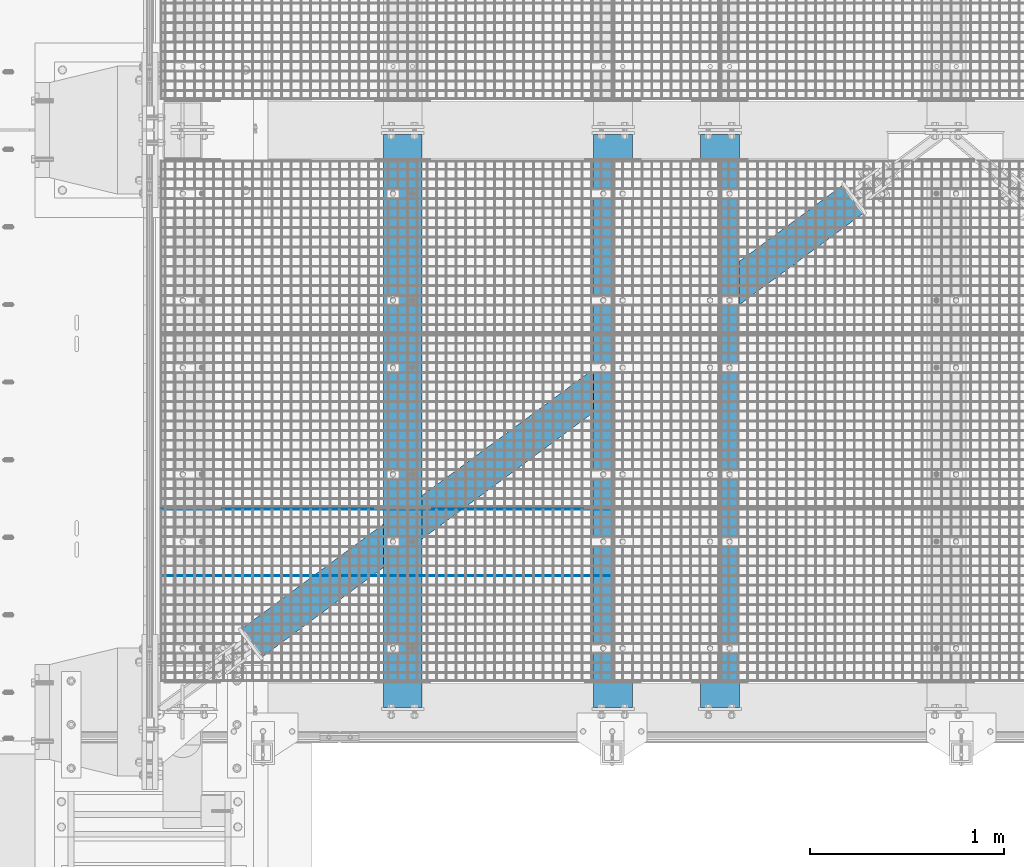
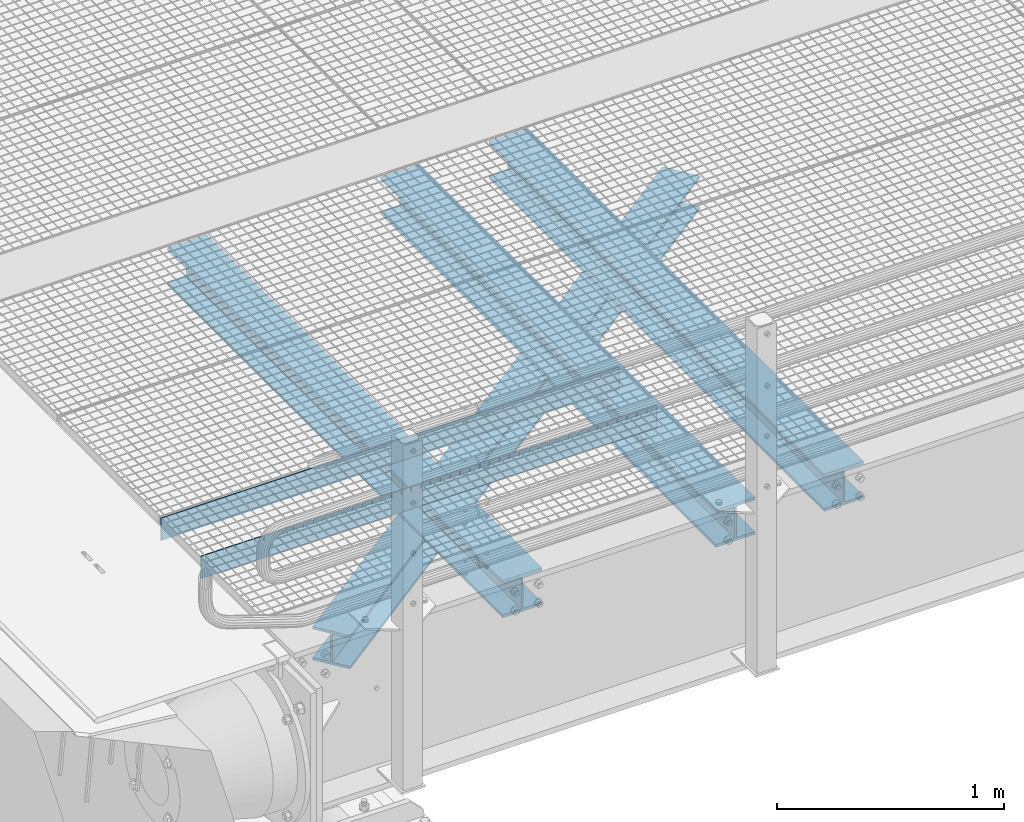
# One storey, part 140 of 1530: 6 beams.
"""IFC2X3 building model written with IfcOpenShell, lengths in millimetres."""

from ifc_helpers import new_model, si_unit, frame, origin_with_axes, place, context, subcontext, project, spatial, faceted_brep, material, type_object, element, save


model = new_model("IFC2X3")

# Units and contexts
model_context = context("Model", 3, precision=1e-05, world=origin_with_axes())
body_context = subcontext(model_context, "Body", "Model", "MODEL_VIEW")
ifc_project = project(units=[si_unit("LENGTHUNIT", "METRE", prefix="MILLI"), si_unit("AREAUNIT", "SQUARE_METRE"), si_unit("VOLUMEUNIT", "CUBIC_METRE"), si_unit("MASSUNIT", "GRAM", prefix="KILO"), si_unit("TIMEUNIT", "SECOND"), si_unit("PLANEANGLEUNIT", "RADIAN"), si_unit("SOLIDANGLEUNIT", "STERADIAN"), si_unit("THERMODYNAMICTEMPERATUREUNIT", "DEGREE_CELSIUS"), si_unit("LUMINOUSINTENSITYUNIT", "LUMEN")], contexts=[model_context])

# Site, building, storey
site_placement = place(None, origin_with_axes())
site = spatial("IfcSite", under=ifc_project, at=site_placement, Name="Brattvåg", CompositionType="ELEMENT")
building_placement = place(site_placement, origin_with_axes())
building = spatial("IfcBuilding", under=site, at=building_placement, Name="Undefined", CompositionType="ELEMENT")
storey_placement = place(building_placement, origin_with_axes())
storey = spatial("IfcBuildingStorey", under=building, at=storey_placement, Name="Undefined", CompositionType="ELEMENT", Elevation=0.0)

# Beams
ifc_material_1 = material(Name="STEEL/S355J2")
beam_type_1 = type_object("IfcBeamType", Name="120*5", PredefinedType="NOTDEFINED")
beam_1_placement = place(storey_placement, frame((2347.01317977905, 702.994873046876, -59.9998626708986), z_axis=(0.0, 0.0, 1.0), x_axis=(-1.0, 1.99999855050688e-09, 0.0)))
element("IfcBeam", 1, at=beam_1_placement, inside=storey, type_object=beam_type_1, material=ifc_material_1, Name="GRATING", context=body_context, shape_type="Brep", body=[
    faceted_brep([(99.4490367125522, -2.50000000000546, 60.0000722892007), (99.4490367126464, -2.50000000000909, 35.0001373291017), (99.4490367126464, 2.50022888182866, 35.0001373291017), (99.4490367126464, 2.5, 60.0), (104.449036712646, -2.50000000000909, 35.0001373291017), (104.449036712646, 2.50022888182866, 35.0001373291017), (104.449036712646, -2.50000000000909, 60.0001373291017), (104.449036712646, 2.5, 60.0), (54.5084370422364, -2.50000000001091, 60.0001373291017), (54.5084370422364, 2.5, 60.0), (54.5084370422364, 2.49999999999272, 35.0001373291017), (54.5084370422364, -2.50000000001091, 35.0001373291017), (49.5084370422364, 2.49999999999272, 35.0001373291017), (49.5084370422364, -2.50000000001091, 35.0001373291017), (49.5084370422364, -2.5, 60.0), (49.5084370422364, 2.5, 60.0), (0.0, 2.5, 60.0), (0.0, -2.5, 60.0), (0.0, -2.5, -60.0), (0.0, 2.5, -60.0), (2319.99865722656, 2.5, -60.0), (2319.99865722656, -2.5, -60.0), (2319.99865722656, -2.5, 60.0), (2319.99865722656, 2.5, 60.0), (2302.24871932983, 2.5, 60.0), (2302.24871932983, -2.50000000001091, 60.0001373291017), (2302.24871932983, 2.49999999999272, 35.0001373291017), (2302.24871932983, -2.50000000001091, 35.0001373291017), (2297.24871932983, 2.49999999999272, 35.0001373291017), (2297.24871932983, -2.50000000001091, 35.0001373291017), (2297.24871932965, -2.50000000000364, 60.0000461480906), (2297.24871932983, 2.5, 60.0), (2252.29859649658, 2.5, 60.0), (2252.29859649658, -2.50000000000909, 60.0001373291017), (2252.29859649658, 2.50022888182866, 35.0001373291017), (2252.29859649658, -2.50000000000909, 35.0001373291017), (2247.29859649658, 2.50022888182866, 35.0001373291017), (2247.29859649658, -2.50000000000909, 35.0001373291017), (2247.29859649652, -2.50000000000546, 60.0000848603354), (2247.29859649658, 2.5, 60.0), (2202.34847366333, 2.5, 60.0), (2202.34847366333, -2.50000000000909, 60.0001373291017), (2202.34847366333, 2.50022888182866, 35.0001373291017), (2202.34847366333, -2.50000000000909, 35.0001373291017), (2197.34847366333, 2.50022888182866, 35.0001373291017), (2197.34847366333, -2.50000000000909, 35.0001373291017), (2197.34847366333, -2.5, 60.0), (2197.34847366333, 2.5, 60.0), (2152.39882766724, 2.5, 60.0), (2152.39882766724, -2.50000000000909, 60.0001373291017), (2152.39882766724, 2.50022888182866, 35.0001373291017), (2152.39882766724, -2.50000000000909, 35.0001373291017), (2147.39882766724, 2.50022888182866, 35.0001373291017), (2147.39882766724, -2.50000000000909, 35.0001373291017), (2147.39882766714, -2.50000000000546, 60.0000722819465), (2147.39882766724, 2.5, 60.0), (2102.44870483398, 2.5, 60.0), (2102.44870483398, -2.50000000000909, 60.0001373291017), (2102.44870483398, 2.50022888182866, 35.0001373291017), (2102.44870483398, -2.50000000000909, 35.0001373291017), (2097.44870483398, 2.50022888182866, 35.0001373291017), (2097.44870483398, -2.50000000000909, 35.0001373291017), (2097.44870483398, -2.5, 60.0), (2097.44870483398, 2.5, 60.0), (2052.49858200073, 2.5, 60.0), (2052.49858200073, -2.50000000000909, 60.0001373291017), (2052.49858200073, 2.50022888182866, 35.0001373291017), (2052.49858200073, -2.50000000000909, 35.0001373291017), (2047.49858200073, 2.50022888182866, 35.0001373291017), (2047.49858200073, -2.50000000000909, 35.0001373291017), (2047.49858200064, -2.50000000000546, 60.0000722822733), (2047.49858200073, 2.5, 60.0), (2002.54845916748, 2.5, 60.0), (2002.54845916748, -2.50000000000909, 60.0001373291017), (2002.54845916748, 2.50022888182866, 35.0001373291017), (2002.54845916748, -2.50000000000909, 35.0001373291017), (1997.54845916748, 2.50022888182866, 35.0001373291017), (1997.54845916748, -2.50000000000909, 35.0001373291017), (1997.54845916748, -2.5, 60.0), (1997.54845916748, 2.5, 60.0), (1952.59881317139, 2.5, 60.0), (1952.59881317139, -2.50000000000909, 60.0001373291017), (1952.59881317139, 2.50022888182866, 35.0001373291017), (1952.59881317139, -2.50000000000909, 35.0001373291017), (1947.59881317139, 2.50022888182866, 35.0001373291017), (1947.59881317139, -2.50000000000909, 35.0001373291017), (1947.59881317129, -2.50000000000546, 60.0000722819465), (1947.59881317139, 2.5, 60.0), (1902.64869033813, 2.5, 60.0), (1902.64869033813, -2.50000000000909, 60.0001373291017), (1902.64869033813, 2.50022888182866, 35.0001373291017), (1902.64869033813, -2.50000000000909, 35.0001373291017), (1897.64869033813, 2.50022888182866, 35.0001373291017), (1897.64869033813, -2.50000000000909, 35.0001373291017), (1897.64869033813, -2.5, 60.0), (1897.64869033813, 2.5, 60.0), (1852.69856750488, 2.5, 60.0), (1852.69856750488, -2.50000000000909, 60.0001373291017), (1852.69856750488, 2.50022888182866, 35.0001373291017), (1852.69856750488, -2.50000000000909, 35.0001373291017), (1847.69856750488, 2.50022888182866, 35.0001373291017), (1847.69856750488, -2.50000000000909, 35.0001373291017), (1847.69856750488, -2.5, 60.0), (1847.69856750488, 2.5, 60.0), (1802.74892150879, 2.5, 60.0), (1802.74892150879, -2.50000000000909, 60.0001373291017), (1802.74892150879, 2.50022888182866, 35.0001373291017), (1802.74892150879, -2.50000000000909, 35.0001373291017), (1797.74892150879, 2.50022888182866, 35.0001373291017), (1797.74892150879, -2.50000000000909, 35.0001373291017), (1797.74892150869, -2.50000000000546, 60.0000722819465), (1797.74892150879, 2.5, 60.0), (1752.79879867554, 2.5, 60.0), (1752.79879867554, -2.50000000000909, 60.0001373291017), (1752.79879867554, 2.50022888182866, 35.0001373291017), (1752.79879867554, -2.50000000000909, 35.0001373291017), (1747.79879867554, 2.50022888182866, 35.0001373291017), (1747.79879867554, -2.50000000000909, 35.0001373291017), (1747.79879867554, -2.5, 60.0), (1747.79879867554, 2.5, 60.0), (1702.84867584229, 2.5, 60.0), (1702.84867584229, -2.50000000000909, 60.0001373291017), (1702.84867584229, 2.50022888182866, 35.0001373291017), (1702.84867584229, -2.50000000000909, 35.0001373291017), (1697.84867584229, 2.50022888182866, 35.0001373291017), (1697.84867584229, -2.50000000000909, 35.0001373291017), (1697.84867584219, -2.50000000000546, 60.0000722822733), (1697.84867584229, 2.5, 60.0), (1652.89855300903, 2.5, 60.0), (1652.89855300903, -2.50000000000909, 60.0001373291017), (1652.89855300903, 2.50022888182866, 35.0001373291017), (1652.89855300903, -2.50000000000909, 35.0001373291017), (1647.89855300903, 2.50022888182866, 35.0001373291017), (1647.89855300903, -2.50000000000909, 35.0001373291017), (1647.89855300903, -2.5, 60.0), (1647.89855300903, 2.5, 60.0), (1602.94890701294, 2.5, 60.0), (1602.94890701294, -2.50000000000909, 60.0001373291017), (1602.94890701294, 2.50022888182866, 35.0001373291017), (1602.94890701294, -2.50000000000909, 35.0001373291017), (1597.94890701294, 2.50022888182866, 35.0001373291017), (1597.94890701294, -2.50000000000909, 35.0001373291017), (1597.94890701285, -2.50000000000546, 60.0000722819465), (1597.94890701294, 2.5, 60.0), (1552.99878417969, 2.5, 60.0), (1552.99878417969, -2.50000000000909, 60.0001373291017), (1552.99878417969, 2.50022888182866, 35.0001373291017), (1552.99878417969, -2.50000000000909, 35.0001373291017), (1547.99878417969, 2.50022888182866, 35.0001373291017), (1547.99878417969, -2.50000000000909, 35.0001373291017), (1547.99878417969, -2.5, 60.0), (1547.99878417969, 2.5, 60.0), (1503.04866134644, 2.5, 60.0), (1503.04866134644, -2.50000000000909, 60.0001373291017), (1503.04866134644, 2.50022888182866, 35.0001373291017), (1503.04866134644, -2.50000000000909, 35.0001373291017), (1498.04866134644, 2.50022888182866, 35.0001373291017), (1498.04866134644, -2.50000000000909, 35.0001373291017), (1498.04866134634, -2.50000000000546, 60.0000722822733), (1498.04866134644, 2.5, 60.0), (1453.09853851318, 2.5, 60.0), (1453.09853851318, -2.50000000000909, 60.0001373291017), (1453.09853851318, 2.50022888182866, 35.0001373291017), (1453.09853851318, -2.50000000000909, 35.0001373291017), (1448.09853851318, 2.50022888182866, 35.0001373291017), (1448.09853851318, -2.50000000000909, 35.0001373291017), (1448.09853851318, -2.5, 60.0), (1448.09853851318, 2.5, 60.0), (1403.14889251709, 2.5, 60.0), (1403.14889251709, -2.50000000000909, 60.0001373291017), (1403.14889251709, 2.50022888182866, 35.0001373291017), (1403.14889251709, -2.50000000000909, 35.0001373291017), (1398.14889251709, 2.50022888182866, 35.0001373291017), (1398.14889251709, -2.50000000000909, 35.0001373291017), (1398.148892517, -2.50000000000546, 60.0000722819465), (1398.14889251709, 2.5, 60.0), (1353.19876968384, 2.5, 60.0), (1353.19876968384, -2.50000000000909, 60.0001373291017), (1353.19876968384, 2.50022888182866, 35.0001373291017), (1353.19876968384, -2.50000000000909, 35.0001373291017), (1348.19876968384, 2.50022888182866, 35.0001373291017), (1348.19876968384, -2.50000000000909, 35.0001373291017), (1348.19876968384, -2.5, 60.0), (1348.19876968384, 2.5, 60.0), (1303.24864685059, 2.5, 60.0), (1303.24864685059, -2.50000000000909, 60.0001373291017), (1303.24864685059, 2.50022888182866, 35.0001373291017), (1303.24864685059, -2.50000000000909, 35.0001373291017), (1298.24864685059, 2.50022888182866, 35.0001373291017), (1298.24864685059, -2.50000000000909, 35.0001373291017), (1298.24864685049, -2.50000000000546, 60.0000722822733), (1298.24864685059, 2.5, 60.0), (1253.29852401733, 2.5, 60.0), (1253.29852401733, -2.50000000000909, 60.0001373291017), (1253.29852401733, 2.50022888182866, 35.0001373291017), (1253.29852401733, -2.50000000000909, 35.0001373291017), (1248.29852401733, 2.50022888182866, 35.0001373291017), (1248.29852401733, -2.50000000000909, 35.0001373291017), (1248.29852401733, -2.5, 60.0), (1248.29852401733, 2.5, 60.0), (1203.34887802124, 2.5, 60.0), (1203.34887802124, -2.50000000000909, 60.0001373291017), (1203.34887802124, 2.50022888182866, 35.0001373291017), (1203.34887802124, -2.50000000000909, 35.0001373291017), (1198.34887802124, 2.50022888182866, 35.0001373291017), (1198.34887802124, -2.50000000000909, 35.0001373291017), (1198.34887802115, -2.50000000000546, 60.0000722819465), (1198.34887802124, 2.5, 60.0), (1153.39875518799, 2.5, 60.0), (1153.39875518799, -2.50000000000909, 60.0001373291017), (1153.39875518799, 2.50022888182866, 35.0001373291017), (1153.39875518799, -2.50000000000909, 35.0001373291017), (1148.39875518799, 2.50022888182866, 35.0001373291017), (1148.39875518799, -2.50000000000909, 35.0001373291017), (1148.39875518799, -2.5, 60.0), (1148.39875518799, 2.5, 60.0), (1103.44863235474, 2.5, 60.0), (1103.44863235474, -2.50000000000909, 60.0001373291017), (1103.44863235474, 2.50022888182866, 35.0001373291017), (1103.44863235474, -2.50000000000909, 35.0001373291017), (1098.44863235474, 2.50022888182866, 35.0001373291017), (1098.44863235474, -2.50000000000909, 35.0001373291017), (1098.44863235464, -2.50000000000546, 60.0000722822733), (1098.44863235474, 2.5, 60.0), (1053.49850952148, 2.5, 60.0), (1053.49850952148, -2.50000000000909, 60.0001373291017), (1053.49850952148, 2.50022888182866, 35.0001373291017), (1053.49850952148, -2.50000000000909, 35.0001373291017), (1048.49850952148, 2.50022888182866, 35.0001373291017), (1048.49850952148, -2.50000000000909, 35.0001373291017), (1048.49850952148, -2.5, 60.0), (1048.49850952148, 2.5, 60.0), (1003.54886352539, 2.5, 60.0), (1003.54886352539, -2.50000000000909, 60.0001373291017), (1003.54886352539, 2.50022888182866, 35.0001373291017), (1003.54886352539, -2.50000000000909, 35.0001373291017), (998.548863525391, 2.50022888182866, 35.0001373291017), (998.548863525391, -2.50000000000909, 35.0001373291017), (998.548863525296, -2.50000000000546, 60.0000722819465), (998.548863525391, 2.5, 60.0), (953.598740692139, 2.5, 60.0), (953.598740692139, -2.50000000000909, 60.0001373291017), (953.598740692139, 2.50022888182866, 35.0001373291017), (953.598740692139, -2.50000000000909, 35.0001373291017), (948.598740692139, 2.50022888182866, 35.0001373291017), (948.598740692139, -2.50000000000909, 35.0001373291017), (948.598740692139, -2.5, 60.0), (948.598740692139, 2.5, 60.0), (903.648617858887, 2.5, 60.0), (903.648617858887, -2.50000000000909, 60.0001373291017), (903.648617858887, 2.50022888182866, 35.0001373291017), (903.648617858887, -2.50000000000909, 35.0001373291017), (898.648617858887, 2.50022888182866, 35.0001373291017), (898.648617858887, -2.50000000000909, 35.0001373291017), (898.648617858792, -2.50000000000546, 60.0000722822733), (898.648617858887, 2.5, 60.0), (853.698495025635, 2.5, 60.0), (853.698495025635, -2.50000000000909, 60.0001373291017), (853.698495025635, 2.50022888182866, 35.0001373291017), (853.698495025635, -2.50000000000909, 35.0001373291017), (848.698495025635, 2.50022888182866, 35.0001373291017), (848.698495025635, -2.50000000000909, 35.0001373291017), (848.698495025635, -2.5, 60.0), (848.698495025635, 2.5, 60.0), (803.748849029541, 2.5, 60.0), (803.748849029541, -2.50000000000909, 60.0001373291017), (803.748849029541, 2.50022888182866, 35.0001373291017), (803.748849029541, -2.50000000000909, 35.0001373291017), (798.748849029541, 2.50022888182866, 35.0001373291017), (798.748849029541, -2.50000000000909, 35.0001373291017), (798.748849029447, -2.50000000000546, 60.0000722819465), (798.748849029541, 2.5, 60.0), (753.798726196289, 2.5, 60.0), (753.798726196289, -2.50000000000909, 60.0001373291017), (753.798726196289, 2.50022888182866, 35.0001373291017), (753.798726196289, -2.50000000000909, 35.0001373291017), (748.798726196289, 2.50022888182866, 35.0001373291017), (748.798726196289, -2.50000000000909, 35.0001373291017), (748.798726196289, -2.5, 60.0), (748.798726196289, 2.5, 60.0), (703.848603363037, 2.5, 60.0), (703.848603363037, -2.50000000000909, 60.0001373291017), (703.848603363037, 2.50022888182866, 35.0001373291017), (703.848603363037, -2.50000000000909, 35.0001373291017), (698.848603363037, 2.50022888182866, 35.0001373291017), (698.848603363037, -2.50000000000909, 35.0001373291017), (698.848603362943, -2.50000000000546, 60.0000722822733), (698.848603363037, 2.5, 60.0), (653.898480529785, 2.5, 60.0), (653.898480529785, -2.50000000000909, 60.0001373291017), (653.898480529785, 2.50022888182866, 35.0001373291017), (653.898480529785, -2.50000000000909, 35.0001373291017), (648.898480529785, 2.50022888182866, 35.0001373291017), (648.898480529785, -2.50000000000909, 35.0001373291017), (648.898480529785, -2.5, 60.0), (648.898480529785, 2.5, 60.0), (603.948834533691, 2.5, 60.0), (603.948834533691, -2.50000000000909, 60.0001373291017), (603.948834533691, 2.50022888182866, 35.0001373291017), (603.948834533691, -2.50000000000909, 35.0001373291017), (598.948834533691, 2.50022888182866, 35.0001373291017), (598.948834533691, -2.50000000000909, 35.0001373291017), (598.948834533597, -2.50000000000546, 60.0000722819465), (598.948834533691, 2.5, 60.0), (553.998711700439, 2.5, 60.0), (553.998711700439, -2.50000000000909, 60.0001373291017), (553.998711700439, 2.50022888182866, 35.0001373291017), (553.998711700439, -2.50000000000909, 35.0001373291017), (548.998711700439, 2.50022888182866, 35.0001373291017), (548.998711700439, -2.50000000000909, 35.0001373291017), (548.998711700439, -2.5, 60.0), (548.998711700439, 2.5, 60.0), (504.048588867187, 2.5, 60.0), (504.048588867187, -2.50000000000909, 60.0001373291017), (504.048588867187, 2.50022888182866, 35.0001373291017), (504.048588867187, -2.50000000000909, 35.0001373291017), (499.048588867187, 2.50022888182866, 35.0001373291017), (499.048588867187, -2.50000000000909, 35.0001373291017), (499.048588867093, -2.50000000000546, 60.0000722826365), (499.048588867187, 2.5, 60.0), (454.098942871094, 2.5, 60.0), (454.098942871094, -2.50000000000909, 60.0001373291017), (454.098942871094, 2.50022888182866, 35.0001373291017), (454.098942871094, -2.50000000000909, 35.0001373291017), (449.098942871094, 2.50022888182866, 35.0001373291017), (449.098942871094, -2.50000000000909, 35.0001373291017), (449.098942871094, -2.5, 60.0), (449.098942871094, 2.5, 60.0), (404.148820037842, 2.5, 60.0), (404.148820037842, -2.50000000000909, 60.0001373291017), (404.148820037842, 2.50022888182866, 35.0001373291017), (404.148820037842, -2.50000000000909, 35.0001373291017), (399.148820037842, 2.50022888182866, 35.0001373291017), (399.148820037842, -2.50000000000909, 35.0001373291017), (399.148820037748, -2.50000000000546, 60.0000722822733), (399.148820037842, 2.5, 60.0), (354.19869720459, 2.5, 60.0), (354.19869720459, -2.50000000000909, 60.0001373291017), (354.19869720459, 2.50022888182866, 35.0001373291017), (354.19869720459, -2.50000000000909, 35.0001373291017), (349.19869720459, 2.50022888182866, 35.0001373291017), (349.19869720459, -2.50000000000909, 35.0001373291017), (349.19869720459, -2.5, 60.0), (349.19869720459, 2.5, 60.0), (304.248574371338, 2.5, 60.0), (304.248574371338, -2.50000000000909, 60.0001373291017), (304.248574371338, 2.50022888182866, 35.0001373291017), (304.248574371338, -2.50000000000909, 35.0001373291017), (299.248574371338, 2.50022888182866, 35.0001373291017), (299.248574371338, -2.50000000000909, 35.0001373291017), (299.248574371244, -2.50000000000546, 60.0000722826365), (299.248574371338, 2.5, 60.0), (254.298928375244, 2.5, 60.0), (254.298928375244, -2.50000000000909, 60.0001373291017), (254.298928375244, 2.50022888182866, 35.0001373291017), (254.298928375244, -2.50000000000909, 35.0001373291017), (249.298928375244, 2.50022888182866, 35.0001373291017), (249.298928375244, -2.50000000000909, 35.0001373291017), (249.298928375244, -2.5, 60.0), (249.298928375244, 2.5, 60.0), (204.348328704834, 2.5, 60.0), (204.348328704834, -2.50000000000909, 60.0001373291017), (204.348328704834, 2.50022888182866, 35.0001373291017), (204.348328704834, -2.50000000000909, 35.0001373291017), (199.348328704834, 2.50022888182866, 35.0001373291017), (199.348328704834, -2.50000000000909, 35.0001373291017), (199.34832870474, -2.50000000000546, 60.0000722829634), (199.348328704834, 2.5, 60.0), (154.39868270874, 2.5, 60.0), (154.39868270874, -2.50000000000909, 60.0001373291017), (154.39868270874, 2.50022888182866, 35.0001373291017), (154.39868270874, -2.50000000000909, 35.0001373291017), (149.39868270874, 2.50022888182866, 35.0001373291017), (149.39868270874, -2.50000000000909, 35.0001373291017), (149.39868270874, -2.5, 60.0), (149.39868270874, 2.5, 60.0)], [[[0, 1, 2, 3]], [[4, 5, 2, 1]], [[6, 7, 5, 4]], [[8, 9, 10, 11]], [[11, 10, 12, 13]], [[14, 13, 12, 15]], [[16, 17, 14, 15]], [[18, 17, 16, 19]], [[18, 19, 20, 21]], [[22, 21, 20, 23]], [[22, 23, 24, 25]], [[25, 24, 26, 27]], [[27, 26, 28, 29]], [[30, 29, 28, 31]], [[32, 33, 30, 31]], [[33, 32, 34, 35]], [[35, 34, 36, 37]], [[38, 37, 36, 39]], [[40, 41, 38, 39]], [[41, 40, 42, 43]], [[43, 42, 44, 45]], [[46, 45, 44, 47]], [[46, 47, 48, 49]], [[49, 48, 50, 51]], [[51, 50, 52, 53]], [[54, 53, 52, 55]], [[56, 57, 54, 55]], [[57, 56, 58, 59]], [[59, 58, 60, 61]], [[62, 61, 60, 63]], [[62, 63, 64, 65]], [[65, 64, 66, 67]], [[67, 66, 68, 69]], [[70, 69, 68, 71]], [[72, 73, 70, 71]], [[73, 72, 74, 75]], [[75, 74, 76, 77]], [[78, 77, 76, 79]], [[78, 79, 80, 81]], [[81, 80, 82, 83]], [[83, 82, 84, 85]], [[86, 85, 84, 87]], [[88, 89, 86, 87]], [[89, 88, 90, 91]], [[91, 90, 92, 93]], [[94, 93, 92, 95]], [[94, 95, 96, 97]], [[97, 96, 98, 99]], [[99, 98, 100, 101]], [[102, 101, 100, 103]], [[102, 103, 104, 105]], [[105, 104, 106, 107]], [[107, 106, 108, 109]], [[110, 109, 108, 111]], [[112, 113, 110, 111]], [[113, 112, 114, 115]], [[115, 114, 116, 117]], [[118, 117, 116, 119]], [[118, 119, 120, 121]], [[121, 120, 122, 123]], [[123, 122, 124, 125]], [[126, 125, 124, 127]], [[128, 129, 126, 127]], [[129, 128, 130, 131]], [[131, 130, 132, 133]], [[134, 133, 132, 135]], [[134, 135, 136, 137]], [[137, 136, 138, 139]], [[139, 138, 140, 141]], [[142, 141, 140, 143]], [[144, 145, 142, 143]], [[145, 144, 146, 147]], [[147, 146, 148, 149]], [[150, 149, 148, 151]], [[150, 151, 152, 153]], [[153, 152, 154, 155]], [[155, 154, 156, 157]], [[158, 157, 156, 159]], [[160, 161, 158, 159]], [[161, 160, 162, 163]], [[163, 162, 164, 165]], [[166, 165, 164, 167]], [[166, 167, 168, 169]], [[169, 168, 170, 171]], [[171, 170, 172, 173]], [[174, 173, 172, 175]], [[176, 177, 174, 175]], [[177, 176, 178, 179]], [[179, 178, 180, 181]], [[182, 181, 180, 183]], [[182, 183, 184, 185]], [[185, 184, 186, 187]], [[187, 186, 188, 189]], [[190, 189, 188, 191]], [[192, 193, 190, 191]], [[193, 192, 194, 195]], [[195, 194, 196, 197]], [[198, 197, 196, 199]], [[198, 199, 200, 201]], [[201, 200, 202, 203]], [[203, 202, 204, 205]], [[206, 205, 204, 207]], [[208, 209, 206, 207]], [[209, 208, 210, 211]], [[211, 210, 212, 213]], [[214, 213, 212, 215]], [[214, 215, 216, 217]], [[217, 216, 218, 219]], [[219, 218, 220, 221]], [[222, 221, 220, 223]], [[224, 225, 222, 223]], [[225, 224, 226, 227]], [[227, 226, 228, 229]], [[230, 229, 228, 231]], [[230, 231, 232, 233]], [[233, 232, 234, 235]], [[235, 234, 236, 237]], [[238, 237, 236, 239]], [[240, 241, 238, 239]], [[241, 240, 242, 243]], [[243, 242, 244, 245]], [[246, 245, 244, 247]], [[246, 247, 248, 249]], [[249, 248, 250, 251]], [[251, 250, 252, 253]], [[254, 253, 252, 255]], [[256, 257, 254, 255]], [[257, 256, 258, 259]], [[259, 258, 260, 261]], [[262, 261, 260, 263]], [[262, 263, 264, 265]], [[265, 264, 266, 267]], [[267, 266, 268, 269]], [[270, 269, 268, 271]], [[272, 273, 270, 271]], [[273, 272, 274, 275]], [[275, 274, 276, 277]], [[278, 277, 276, 279]], [[278, 279, 280, 281]], [[281, 280, 282, 283]], [[283, 282, 284, 285]], [[286, 285, 284, 287]], [[288, 289, 286, 287]], [[289, 288, 290, 291]], [[291, 290, 292, 293]], [[294, 293, 292, 295]], [[294, 295, 296, 297]], [[297, 296, 298, 299]], [[299, 298, 300, 301]], [[302, 301, 300, 303]], [[304, 305, 302, 303]], [[305, 304, 306, 307]], [[307, 306, 308, 309]], [[310, 309, 308, 311]], [[310, 311, 312, 313]], [[313, 312, 314, 315]], [[315, 314, 316, 317]], [[318, 317, 316, 319]], [[320, 321, 318, 319]], [[321, 320, 322, 323]], [[323, 322, 324, 325]], [[326, 325, 324, 327]], [[326, 327, 328, 329]], [[329, 328, 330, 331]], [[331, 330, 332, 333]], [[334, 333, 332, 335]], [[336, 337, 334, 335]], [[337, 336, 338, 339]], [[339, 338, 340, 341]], [[342, 341, 340, 343]], [[342, 343, 344, 345]], [[345, 344, 346, 347]], [[347, 346, 348, 349]], [[350, 349, 348, 351]], [[352, 353, 350, 351]], [[353, 352, 354, 355]], [[355, 354, 356, 357]], [[358, 357, 356, 359]], [[358, 359, 360, 361]], [[361, 360, 362, 363]], [[363, 362, 364, 365]], [[366, 365, 364, 367]], [[368, 369, 366, 367]], [[369, 368, 370, 371]], [[371, 370, 372, 373]], [[374, 373, 372, 375]], [[1, 0, 8, 11, 13, 14, 17, 18, 21, 22, 25, 27, 29, 30, 33, 35, 37, 38, 41, 43, 45, 46, 49, 51, 53, 54, 57, 59, 61, 62, 65, 67, 69, 70, 73, 75, 77, 78, 81, 83, 85, 86, 89, 91, 93, 94, 97, 99, 101, 102, 105, 107, 109, 110, 113, 115, 117, 118, 121, 123, 125, 126, 129, 131, 133, 134, 137, 139, 141, 142, 145, 147, 149, 150, 153, 155, 157, 158, 161, 163, 165, 166, 169, 171, 173, 174, 177, 179, 181, 182, 185, 187, 189, 190, 193, 195, 197, 198, 201, 203, 205, 206, 209, 211, 213, 214, 217, 219, 221, 222, 225, 227, 229, 230, 233, 235, 237, 238, 241, 243, 245, 246, 249, 251, 253, 254, 257, 259, 261, 262, 265, 267, 269, 270, 273, 275, 277, 278, 281, 283, 285, 286, 289, 291, 293, 294, 297, 299, 301, 302, 305, 307, 309, 310, 313, 315, 317, 318, 321, 323, 325, 326, 329, 331, 333, 334, 337, 339, 341, 342, 345, 347, 349, 350, 353, 355, 357, 358, 361, 363, 365, 366, 369, 371, 373, 374, 6, 4]], [[9, 8, 0, 3]], [[375, 372, 370, 368, 367, 364, 362, 360, 359, 356, 354, 352, 351, 348, 346, 344, 343, 340, 338, 336, 335, 332, 330, 328, 327, 324, 322, 320, 319, 316, 314, 312, 311, 308, 306, 304, 303, 300, 298, 296, 295, 292, 290, 288, 287, 284, 282, 280, 279, 276, 274, 272, 271, 268, 266, 264, 263, 260, 258, 256, 255, 252, 250, 248, 247, 244, 242, 240, 239, 236, 234, 232, 231, 228, 226, 224, 223, 220, 218, 216, 215, 212, 210, 208, 207, 204, 202, 200, 199, 196, 194, 192, 191, 188, 186, 184, 183, 180, 178, 176, 175, 172, 170, 168, 167, 164, 162, 160, 159, 156, 154, 152, 151, 148, 146, 144, 143, 140, 138, 136, 135, 132, 130, 128, 127, 124, 122, 120, 119, 116, 114, 112, 111, 108, 106, 104, 103, 100, 98, 96, 95, 92, 90, 88, 87, 84, 82, 80, 79, 76, 74, 72, 71, 68, 66, 64, 63, 60, 58, 56, 55, 52, 50, 48, 47, 44, 42, 40, 39, 36, 34, 32, 31, 28, 26, 24, 23, 20, 19, 16, 15, 12, 10, 9, 3, 2, 5, 7]], [[374, 375, 7, 6]]]),
])
beam_2_placement = place(storey_placement, frame((2352.00899291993, 1044.49917602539, -59.9998626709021), z_axis=(0.0, 0.0, 1.0), x_axis=(-1.0, 1.99999855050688e-09, 0.0)))
element("IfcBeam", 2, at=beam_2_placement, inside=storey, type_object=beam_type_1, material=ifc_material_1, Name="GRATING", context=body_context, shape_type="Brep", body=[
    faceted_brep([(0.0, 2.5, -60.0), (0.0, 2.5, 60.0), (2329.99832153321, 2.5, 60.0), (2329.99832153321, 2.5, -60.0), (0.0, -2.5, 60.0), (2329.99832153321, -2.5, 60.0), (0.0, -2.5, -60.0), (2329.99832153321, -2.5, -60.0)], [[[0, 1, 2, 3]], [[1, 4, 5, 2]], [[4, 6, 7, 5]], [[6, 0, 3, 7]], [[5, 7, 3, 2]], [[6, 4, 1, 0]]]),
])
ifc_material_2 = material(Name="STEEL/S355J2+N")
beam_type_2 = type_object("IfcBeamType", Name="HEB180", PredefinedType="NOTDEFINED")
beam_3_placement = place(storey_placement, frame((491.918335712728, 355.746704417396, -445.0), z_axis=(0.0, 0.0, 1.0), x_axis=(0.804538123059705, 0.593901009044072, 0.0)))
element("IfcBeam", 3, at=beam_3_placement, inside=storey, type_object=beam_type_2, material=ifc_material_2, Name="STÅLBJELKE", context=body_context, shape_type="Brep", body=[
    faceted_brep([(5.45696821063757e-12, 90.0000000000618, -90.0), (5.45696821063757e-12, 90.0000000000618, -76.0), (3853.34686769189, 89.9999999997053, -76.0), (3853.34686769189, 89.9999999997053, -90.0), (-9.09494701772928e-13, 4.25000000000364, -76.0), (3853.34686769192, 4.2499999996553, -76.0), (-9.09494701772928e-13, 4.25000000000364, 76.0), (3853.34686769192, 4.2499999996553, 76.0), (5.45696821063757e-12, 90.0000000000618, 76.0), (3853.34686769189, 89.9999999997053, 76.0), (5.45696821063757e-12, 90.0000000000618, 90.0), (3853.34686769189, 89.9999999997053, 90.0), (-6.3664629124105e-12, -90.00000000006, 90.0), (3853.34686769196, -90.0000000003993, 90.0), (-6.3664629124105e-12, -90.00000000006, 76.0), (3853.34686769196, -90.0000000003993, 76.0), (0.0, -4.25000000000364, 76.0), (3853.34686769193, -4.25000000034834, 76.0), (0.0, -4.25000000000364, -76.0), (3853.34686769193, -4.25000000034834, -76.0), (-6.3664629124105e-12, -90.00000000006, -76.0), (3853.34686769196, -90.0000000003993, -76.0), (-6.3664629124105e-12, -90.00000000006, -90.0), (3853.34686769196, -90.0000000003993, -90.0)], [[[0, 1, 2, 3]], [[1, 4, 5, 2]], [[4, 6, 7, 5]], [[6, 8, 9, 7]], [[8, 10, 11, 9]], [[10, 12, 13, 11]], [[12, 14, 15, 13]], [[14, 16, 17, 15]], [[16, 18, 19, 17]], [[18, 20, 21, 19]], [[20, 22, 23, 21]], [[22, 0, 3, 23]], [[5, 7, 9, 11, 13, 15, 17, 19, 21, 23, 3, 2]], [[22, 20, 18, 16, 14, 12, 10, 8, 6, 4, 1, 0]]]),
])
beam_type_3 = type_object("IfcBeamType", Name="HEB200", PredefinedType="NOTDEFINED")
for number, where, z_axis, x_axis in (
    (4, (1271.00112915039, 23.0015563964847, -219.998931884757), (0.0, 0.0, 1.0), (0.0, 1.0, 0.0)),
    (5, (2355.00112915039, 23.0015563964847, -219.998931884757), (0.0, 0.0, 1.0), (0.0, 1.0, 0.0)),
    (6, (2906.00112915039, 23.0015563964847, -219.998931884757), (0.0, 0.0, 1.0), (0.0, 1.0, 0.0)),
):
    element("IfcBeam", number, at=place(storey_placement, frame(where, z_axis=z_axis, x_axis=x_axis)), inside=storey, type_object=beam_type_3, material=ifc_material_2, Name="STÅLBJELKE", context=body_context, shape_type="Brep", body=[
        faceted_brep([(0.0, 100.0, -100.0), (0.0, 100.0, -85.0), (2953.99993896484, 100.0, -85.0), (2953.99993896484, 100.0, -100.0), (0.0, 4.5, -85.0), (2953.99993896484, 4.5, -85.0), (0.0, 4.5, 85.0), (2953.99993896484, 4.5, 85.0), (0.0, 100.0, 85.0), (2953.99993896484, 100.0, 85.0), (0.0, 100.0, 100.0), (2953.99993896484, 100.0, 100.0), (0.0, -100.0, 100.0), (2953.99993896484, -100.0, 100.0), (0.0, -100.0, 85.0), (2953.99993896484, -100.0, 85.0), (0.0, -4.5, 85.0), (2953.99993896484, -4.5, 85.0), (0.0, -4.5, -85.0), (2953.99993896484, -4.5, -85.0), (0.0, -100.0, -85.0), (2953.99993896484, -100.0, -85.0), (0.0, -100.0, -100.0), (2953.99993896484, -100.0, -100.0)], [[[0, 1, 2, 3]], [[1, 4, 5, 2]], [[4, 6, 7, 5]], [[6, 8, 9, 7]], [[8, 10, 11, 9]], [[10, 12, 13, 11]], [[12, 14, 15, 13]], [[14, 16, 17, 15]], [[16, 18, 19, 17]], [[18, 20, 21, 19]], [[20, 22, 23, 21]], [[22, 0, 3, 23]], [[5, 7, 9, 11, 13, 15, 17, 19, 21, 23, 3, 2]], [[22, 20, 18, 16, 14, 12, 10, 8, 6, 4, 1, 0]]]),
    ])

save(model, "model.ifc")
